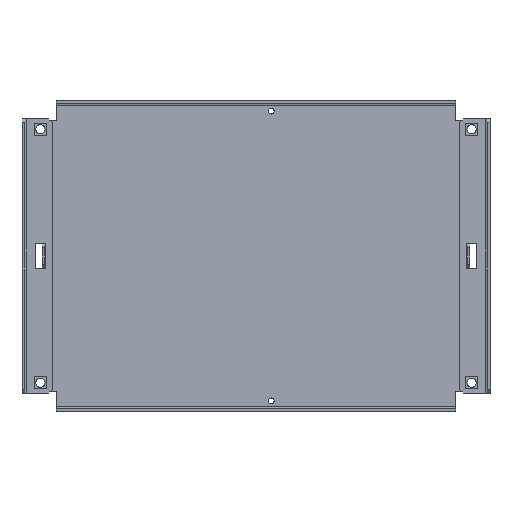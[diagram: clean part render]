
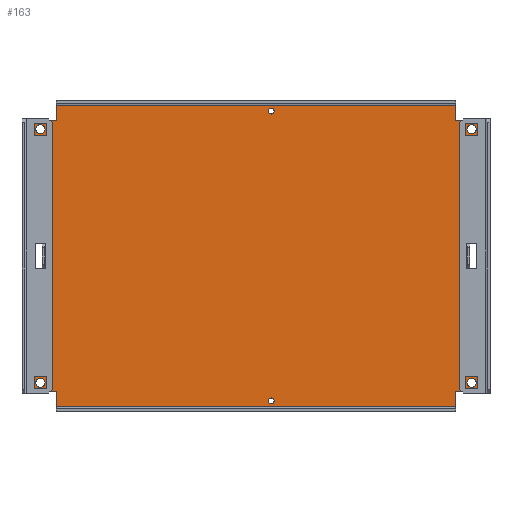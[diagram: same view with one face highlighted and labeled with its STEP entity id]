
A CAD part, top view. The second image highlights one B-rep face of the part: STEP entity #163.
In plain terms, the highlighted planar face has unit normal (0, 0, 1).
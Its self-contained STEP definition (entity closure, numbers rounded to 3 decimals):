
#163=ADVANCED_FACE('',(#1535,#1537,#1539,#1541,#1543,#1545,#1547),#1549,.T.);
#1535=FACE_BOUND('',#1536,.T.);
#1536=EDGE_LOOP('',(#2639,#2640,#2641,#2642,#2643,#2644,#2645,#2646,#2647,#2648,
#2649,#2650,#2651,#2652,#2653,#2654,#2655,#2656,#2657,#2658,#2659,#2660,#2661,#2662,
#2663,#2664,#2665,#2666));
#1537=FACE_BOUND('',#1538,.T.);
#1538=EDGE_LOOP('',(#2667));
#1539=FACE_BOUND('',#1540,.T.);
#1540=EDGE_LOOP('',(#2668));
#1541=FACE_BOUND('',#1542,.T.);
#1542=EDGE_LOOP('',(#2669));
#1543=FACE_BOUND('',#1544,.T.);
#1544=EDGE_LOOP('',(#2670));
#1545=FACE_BOUND('',#1546,.T.);
#1546=EDGE_LOOP('',(#2671));
#1547=FACE_BOUND('',#1548,.T.);
#1548=EDGE_LOOP('',(#2672));
#1549=PLANE('',#1550);
#1550=AXIS2_PLACEMENT_3D('',#1551,#1552,#1553);
#1551=CARTESIAN_POINT('',(0.,0.,0.));
#1552=DIRECTION('',(0.,0.,1.));
#1553=DIRECTION('',(1.,0.,0.));
#2639=ORIENTED_EDGE('',*,*,#3414,.F.);
#2640=ORIENTED_EDGE('',*,*,#3415,.T.);
#2641=ORIENTED_EDGE('',*,*,#3381,.T.);
#2642=ORIENTED_EDGE('',*,*,#3416,.T.);
#2643=ORIENTED_EDGE('',*,*,#3417,.T.);
#2644=ORIENTED_EDGE('',*,*,#3418,.F.);
#2645=ORIENTED_EDGE('',*,*,#3419,.F.);
#2646=ORIENTED_EDGE('',*,*,#3420,.F.);
#2647=ORIENTED_EDGE('',*,*,#3421,.T.);
#2648=ORIENTED_EDGE('',*,*,#3422,.T.);
#2649=ORIENTED_EDGE('',*,*,#3423,.T.);
#2650=ORIENTED_EDGE('',*,*,#3424,.T.);
#2651=ORIENTED_EDGE('',*,*,#3425,.F.);
#2652=ORIENTED_EDGE('',*,*,#3426,.T.);
#2653=ORIENTED_EDGE('',*,*,#3427,.T.);
#2654=ORIENTED_EDGE('',*,*,#3428,.T.);
#2655=ORIENTED_EDGE('',*,*,#3429,.T.);
#2656=ORIENTED_EDGE('',*,*,#3430,.T.);
#2657=ORIENTED_EDGE('',*,*,#3431,.T.);
#2658=ORIENTED_EDGE('',*,*,#3432,.F.);
#2659=ORIENTED_EDGE('',*,*,#3433,.F.);
#2660=ORIENTED_EDGE('',*,*,#3434,.F.);
#2661=ORIENTED_EDGE('',*,*,#3387,.T.);
#2662=ORIENTED_EDGE('',*,*,#3435,.T.);
#2663=ORIENTED_EDGE('',*,*,#3436,.F.);
#2664=ORIENTED_EDGE('',*,*,#3437,.F.);
#2665=ORIENTED_EDGE('',*,*,#3438,.F.);
#2666=ORIENTED_EDGE('',*,*,#3377,.F.);
#2667=ORIENTED_EDGE('',*,*,#3365,.F.);
#2668=ORIENTED_EDGE('',*,*,#3367,.T.);
#2669=ORIENTED_EDGE('',*,*,#3369,.T.);
#2670=ORIENTED_EDGE('',*,*,#3371,.F.);
#2671=ORIENTED_EDGE('',*,*,#3373,.T.);
#2672=ORIENTED_EDGE('',*,*,#3375,.F.);
#3365=EDGE_CURVE('',#3757,#3757,#3758,.T.);
#3367=EDGE_CURVE('',#3761,#3761,#3762,.T.);
#3369=EDGE_CURVE('',#3765,#3765,#3766,.T.);
#3371=EDGE_CURVE('',#3769,#3769,#3770,.T.);
#3373=EDGE_CURVE('',#3773,#3773,#3774,.T.);
#3375=EDGE_CURVE('',#3777,#3777,#3778,.T.);
#3377=EDGE_CURVE('',#3781,#3782,#3783,.T.);
#3381=EDGE_CURVE('',#3789,#3790,#3791,.T.);
#3387=EDGE_CURVE('',#3802,#3800,#3803,.T.);
#3414=EDGE_CURVE('',#3852,#3781,#3853,.T.);
#3415=EDGE_CURVE('',#3852,#3789,#3854,.T.);
#3416=EDGE_CURVE('',#3790,#3855,#3856,.T.);
#3417=EDGE_CURVE('',#3855,#3857,#3858,.T.);
#3418=EDGE_CURVE('',#3859,#3857,#3860,.T.);
#3419=EDGE_CURVE('',#3861,#3859,#3862,.T.);
#3420=EDGE_CURVE('',#3863,#3861,#3864,.T.);
#3421=EDGE_CURVE('',#3863,#3865,#3866,.T.);
#3422=EDGE_CURVE('',#3865,#3867,#3868,.T.);
#3423=EDGE_CURVE('',#3867,#3869,#3870,.T.);
#3424=EDGE_CURVE('',#3869,#3871,#3872,.T.);
#3425=EDGE_CURVE('',#3873,#3871,#3874,.T.);
#3426=EDGE_CURVE('',#3873,#3875,#3876,.T.);
#3427=EDGE_CURVE('',#3875,#3877,#3878,.T.);
#3428=EDGE_CURVE('',#3877,#3879,#3880,.T.);
#3429=EDGE_CURVE('',#3879,#3881,#3882,.T.);
#3430=EDGE_CURVE('',#3881,#3883,#3884,.T.);
#3431=EDGE_CURVE('',#3883,#3885,#3886,.T.);
#3432=EDGE_CURVE('',#3887,#3885,#3888,.T.);
#3433=EDGE_CURVE('',#3889,#3887,#3890,.T.);
#3434=EDGE_CURVE('',#3802,#3889,#3891,.T.);
#3435=EDGE_CURVE('',#3800,#3892,#3893,.T.);
#3436=EDGE_CURVE('',#3894,#3892,#3895,.T.);
#3437=EDGE_CURVE('',#3896,#3894,#3897,.T.);
#3438=EDGE_CURVE('',#3782,#3896,#3898,.T.);
#3757=VERTEX_POINT('',#4401);
#3758=CIRCLE('',#4402,2.3);
#3761=VERTEX_POINT('',#4411);
#3762=CIRCLE('',#4412,2.3);
#3765=VERTEX_POINT('',#4421);
#3766=CIRCLE('',#4422,3.65);
#3769=VERTEX_POINT('',#4431);
#3770=CIRCLE('',#4432,3.65);
#3773=VERTEX_POINT('',#4441);
#3774=CIRCLE('',#4442,3.65);
#3777=VERTEX_POINT('',#4451);
#3778=CIRCLE('',#4452,3.65);
#3781=VERTEX_POINT('',#4461);
#3782=VERTEX_POINT('',#4462);
#3783=LINE('',#4463,#4464);
#3789=VERTEX_POINT('',#4477);
#3790=VERTEX_POINT('',#4478);
#3791=LINE('',#4479,#4480);
#3800=VERTEX_POINT('',#4498);
#3802=VERTEX_POINT('',#4502);
#3803=LINE('',#4503,#4504);
#3852=VERTEX_POINT('',#4606);
#3853=LINE('',#4607,#4608);
#3854=LINE('',#4610,#4611);
#3855=VERTEX_POINT('',#4613);
#3856=LINE('',#4614,#4615);
#3857=VERTEX_POINT('',#4617);
#3858=LINE('',#4618,#4619);
#3859=VERTEX_POINT('',#4621);
#3860=LINE('',#4622,#4623);
#3861=VERTEX_POINT('',#4625);
#3862=LINE('',#4626,#4627);
#3863=VERTEX_POINT('',#4629);
#3864=LINE('',#4630,#4631);
#3865=VERTEX_POINT('',#4633);
#3866=LINE('',#4634,#4635);
#3867=VERTEX_POINT('',#4637);
#3868=LINE('',#4638,#4639);
#3869=VERTEX_POINT('',#4641);
#3870=LINE('',#4642,#4643);
#3871=VERTEX_POINT('',#4645);
#3872=LINE('',#4646,#4647);
#3873=VERTEX_POINT('',#4649);
#3874=LINE('',#4650,#4651);
#3875=VERTEX_POINT('',#4653);
#3876=LINE('',#4654,#4655);
#3877=VERTEX_POINT('',#4657);
#3878=LINE('',#4658,#4659);
#3879=VERTEX_POINT('',#4661);
#3880=LINE('',#4662,#4663);
#3881=VERTEX_POINT('',#4665);
#3882=LINE('',#4666,#4667);
#3883=VERTEX_POINT('',#4669);
#3884=LINE('',#4670,#4671);
#3885=VERTEX_POINT('',#4673);
#3886=LINE('',#4674,#4675);
#3887=VERTEX_POINT('',#4677);
#3888=LINE('',#4678,#4679);
#3889=VERTEX_POINT('',#4681);
#3890=LINE('',#4682,#4683);
#3891=LINE('',#4685,#4686);
#3892=VERTEX_POINT('',#4688);
#3893=LINE('',#4689,#4690);
#3894=VERTEX_POINT('',#4692);
#3895=LINE('',#4693,#4694);
#3896=VERTEX_POINT('',#4696);
#3897=LINE('',#4697,#4698);
#3898=LINE('',#4700,#4701);
#4401=CARTESIAN_POINT('',(9.7,114.3,0.));
#4402=AXIS2_PLACEMENT_3D('',#4403,#4404,#4405);
#4403=CARTESIAN_POINT('',(12.,114.3,0.));
#4404=DIRECTION('',(0.,0.,1.));
#4405=DIRECTION('',(-1.,0.,0.));
#4411=CARTESIAN_POINT('',(9.7,-114.3,0.));
#4412=AXIS2_PLACEMENT_3D('',#4413,#4414,#4415);
#4413=CARTESIAN_POINT('',(12.,-114.3,0.));
#4414=DIRECTION('',(0.,0.,-1.));
#4415=DIRECTION('',(1.,0.,0.));
#4421=CARTESIAN_POINT('',(166.45,100.,0.));
#4422=AXIS2_PLACEMENT_3D('',#4423,#4424,#4425);
#4423=CARTESIAN_POINT('',(170.1,100.,0.));
#4424=DIRECTION('',(0.,0.,-1.));
#4425=DIRECTION('',(1.,0.,0.));
#4431=CARTESIAN_POINT('',(166.45,-100.,0.));
#4432=AXIS2_PLACEMENT_3D('',#4433,#4434,#4435);
#4433=CARTESIAN_POINT('',(170.1,-100.,0.));
#4434=DIRECTION('',(0.,0.,1.));
#4435=DIRECTION('',(-1.,0.,0.));
#4441=CARTESIAN_POINT('',(-173.75,-100.,0.));
#4442=AXIS2_PLACEMENT_3D('',#4443,#4444,#4445);
#4443=CARTESIAN_POINT('',(-170.1,-100.,0.));
#4444=DIRECTION('',(0.,0.,-1.));
#4445=DIRECTION('',(1.,0.,0.));
#4451=CARTESIAN_POINT('',(-173.75,100.,0.));
#4452=AXIS2_PLACEMENT_3D('',#4453,#4454,#4455);
#4453=CARTESIAN_POINT('',(-170.1,100.,0.));
#4454=DIRECTION('',(0.,0.,1.));
#4455=DIRECTION('',(-1.,0.,0.));
#4461=CARTESIAN_POINT('',(165.2,16.,0.));
#4462=CARTESIAN_POINT('',(165.2,7.5,0.));
#4463=CARTESIAN_POINT('',(165.2,16.,0.));
#4464=VECTOR('',#4465,1.);
#4465=DIRECTION('',(0.,-1.,0.));
#4477=CARTESIAN_POINT('',(177.6,23.07,0.));
#4478=CARTESIAN_POINT('',(177.6,107.25,0.));
#4479=CARTESIAN_POINT('',(177.6,23.07,0.));
#4480=VECTOR('',#4481,1.);
#4481=DIRECTION('',(0.,1.,0.));
#4498=CARTESIAN_POINT('',(177.6,-23.07,0.));
#4502=CARTESIAN_POINT('',(177.6,-107.25,0.));
#4503=CARTESIAN_POINT('',(177.6,-107.25,0.));
#4504=VECTOR('',#4505,1.);
#4505=DIRECTION('',(0.,1.,0.));
#4606=CARTESIAN_POINT('',(170.53,16.,0.));
#4607=CARTESIAN_POINT('',(170.53,16.,0.));
#4608=VECTOR('',#4609,1.);
#4609=DIRECTION('',(-1.,0.,0.));
#4610=CARTESIAN_POINT('',(170.53,16.,0.));
#4611=VECTOR('',#4612,1.);
#4612=DIRECTION('',(0.707,0.707,0.));
#4613=CARTESIAN_POINT('',(157.6,107.25,0.));
#4614=CARTESIAN_POINT('',(177.6,107.25,0.));
#4615=VECTOR('',#4616,1.);
#4616=DIRECTION('',(-1.,0.,0.));
#4617=CARTESIAN_POINT('',(157.6,119.1,0.));
#4618=CARTESIAN_POINT('',(157.6,107.25,0.));
#4619=VECTOR('',#4620,1.);
#4620=DIRECTION('',(0.,1.,0.));
#4621=CARTESIAN_POINT('',(-157.6,119.1,0.));
#4622=CARTESIAN_POINT('',(-157.6,119.1,0.));
#4623=VECTOR('',#4624,1.);
#4624=DIRECTION('',(1.,0.,0.));
#4625=CARTESIAN_POINT('',(-157.6,107.25,0.));
#4626=CARTESIAN_POINT('',(-157.6,107.25,0.));
#4627=VECTOR('',#4628,1.);
#4628=DIRECTION('',(0.,1.,0.));
#4629=CARTESIAN_POINT('',(-177.6,107.25,0.));
#4630=CARTESIAN_POINT('',(-177.6,107.25,0.));
#4631=VECTOR('',#4632,1.);
#4632=DIRECTION('',(1.,0.,0.));
#4633=CARTESIAN_POINT('',(-177.6,23.07,0.));
#4634=CARTESIAN_POINT('',(-177.6,107.25,0.));
#4635=VECTOR('',#4636,1.);
#4636=DIRECTION('',(0.,-1.,0.));
#4637=CARTESIAN_POINT('',(-170.53,16.,0.));
#4638=CARTESIAN_POINT('',(-177.6,23.07,0.));
#4639=VECTOR('',#4640,1.);
#4640=DIRECTION('',(0.707,-0.707,0.));
#4641=CARTESIAN_POINT('',(-165.2,16.,0.));
#4642=CARTESIAN_POINT('',(-170.53,16.,0.));
#4643=VECTOR('',#4644,1.);
#4644=DIRECTION('',(1.,0.,0.));
#4645=CARTESIAN_POINT('',(-165.2,7.5,0.));
#4646=CARTESIAN_POINT('',(-165.2,16.,0.));
#4647=VECTOR('',#4648,1.);
#4648=DIRECTION('',(0.,-1.,0.));
#4649=CARTESIAN_POINT('',(-165.2,-7.5,0.));
#4650=CARTESIAN_POINT('',(-165.2,-7.5,0.));
#4651=VECTOR('',#4652,1.);
#4652=DIRECTION('',(0.,1.,0.));
#4653=CARTESIAN_POINT('',(-165.2,-16.,0.));
#4654=CARTESIAN_POINT('',(-165.2,-7.5,0.));
#4655=VECTOR('',#4656,1.);
#4656=DIRECTION('',(0.,-1.,0.));
#4657=CARTESIAN_POINT('',(-170.53,-16.,0.));
#4658=CARTESIAN_POINT('',(-165.2,-16.,0.));
#4659=VECTOR('',#4660,1.);
#4660=DIRECTION('',(-1.,0.,0.));
#4661=CARTESIAN_POINT('',(-177.6,-23.07,0.));
#4662=CARTESIAN_POINT('',(-170.53,-16.,0.));
#4663=VECTOR('',#4664,1.);
#4664=DIRECTION('',(-0.707,-0.707,0.));
#4665=CARTESIAN_POINT('',(-177.6,-107.25,0.));
#4666=CARTESIAN_POINT('',(-177.6,-23.07,0.));
#4667=VECTOR('',#4668,1.);
#4668=DIRECTION('',(0.,-1.,0.));
#4669=CARTESIAN_POINT('',(-157.6,-107.25,0.));
#4670=CARTESIAN_POINT('',(-177.6,-107.25,0.));
#4671=VECTOR('',#4672,1.);
#4672=DIRECTION('',(1.,0.,0.));
#4673=CARTESIAN_POINT('',(-157.6,-119.1,0.));
#4674=CARTESIAN_POINT('',(-157.6,-107.25,0.));
#4675=VECTOR('',#4676,1.);
#4676=DIRECTION('',(0.,-1.,0.));
#4677=CARTESIAN_POINT('',(157.6,-119.1,0.));
#4678=CARTESIAN_POINT('',(157.6,-119.1,0.));
#4679=VECTOR('',#4680,1.);
#4680=DIRECTION('',(-1.,0.,0.));
#4681=CARTESIAN_POINT('',(157.6,-107.25,0.));
#4682=CARTESIAN_POINT('',(157.6,-107.25,0.));
#4683=VECTOR('',#4684,1.);
#4684=DIRECTION('',(0.,-1.,0.));
#4685=CARTESIAN_POINT('',(177.6,-107.25,0.));
#4686=VECTOR('',#4687,1.);
#4687=DIRECTION('',(-1.,0.,0.));
#4688=CARTESIAN_POINT('',(170.53,-16.,0.));
#4689=CARTESIAN_POINT('',(177.6,-23.07,0.));
#4690=VECTOR('',#4691,1.);
#4691=DIRECTION('',(-0.707,0.707,0.));
#4692=CARTESIAN_POINT('',(165.2,-16.,0.));
#4693=CARTESIAN_POINT('',(165.2,-16.,0.));
#4694=VECTOR('',#4695,1.);
#4695=DIRECTION('',(1.,0.,0.));
#4696=CARTESIAN_POINT('',(165.2,-7.5,0.));
#4697=CARTESIAN_POINT('',(165.2,-7.5,0.));
#4698=VECTOR('',#4699,1.);
#4699=DIRECTION('',(0.,-1.,0.));
#4700=CARTESIAN_POINT('',(165.2,7.5,0.));
#4701=VECTOR('',#4702,1.);
#4702=DIRECTION('',(0.,-1.,0.));
